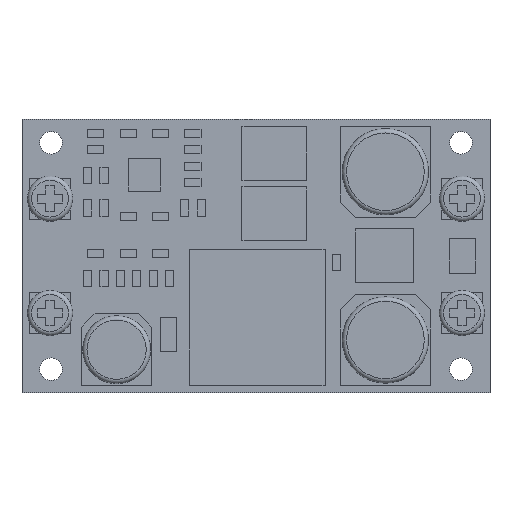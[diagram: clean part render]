
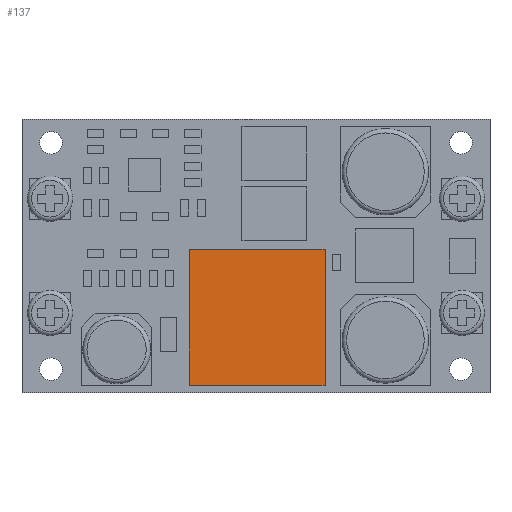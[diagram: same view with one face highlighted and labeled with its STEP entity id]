
A CAD part, top view. The second image highlights one B-rep face of the part: STEP entity #137.
In plain terms, the highlighted planar face has unit normal (0, 0, 1).
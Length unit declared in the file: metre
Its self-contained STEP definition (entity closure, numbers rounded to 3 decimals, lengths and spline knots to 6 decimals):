
#137 = ADVANCED_FACE( '', ( #578 ), #579, .F. );
#578 = FACE_OUTER_BOUND( '', #1289, .T. );
#579 = PLANE( '', #1290 );
#1289 = EDGE_LOOP( '', ( #2437, #2438, #2439, #2440 ) );
#1290 = AXIS2_PLACEMENT_3D( '', #2441, #2442, #2443 );
#2437 = ORIENTED_EDGE( '', *, *, #4453, .T. );
#2438 = ORIENTED_EDGE( '', *, *, #4454, .T. );
#2439 = ORIENTED_EDGE( '', *, *, #4455, .T. );
#2440 = ORIENTED_EDGE( '', *, *, #4456, .T. );
#2441 = CARTESIAN_POINT( '', ( -0.0062, -0.012, 0.01 ) );
#2442 = DIRECTION( '', ( 0., 0., -1. ) );
#2443 = DIRECTION( '', ( -1., 0., 0. ) );
#4453 = EDGE_CURVE( '', #5448, #5449, #5450, .T. );
#4454 = EDGE_CURVE( '', #5449, #5451, #5452, .T. );
#4455 = EDGE_CURVE( '', #5451, #5453, #5454, .T. );
#4456 = EDGE_CURVE( '', #5453, #5448, #5455, .T. );
#5448 = VERTEX_POINT( '', #6929 );
#5449 = VERTEX_POINT( '', #6930 );
#5450 = LINE( '', #6931, #6932 );
#5451 = VERTEX_POINT( '', #6933 );
#5452 = LINE( '', #6934, #6935 );
#5453 = VERTEX_POINT( '', #6936 );
#5454 = LINE( '', #6937, #6938 );
#5455 = LINE( '', #6939, #6940 );
#6929 = CARTESIAN_POINT( '', ( -0.0062, -0.012, 0.01 ) );
#6930 = CARTESIAN_POINT( '', ( 0.0064, -0.012, 0.01 ) );
#6931 = CARTESIAN_POINT( '', ( -0.0062, -0.012, 0.01 ) );
#6932 = VECTOR( '', #8258, 1. );
#6933 = CARTESIAN_POINT( '', ( 0.0064, 0.0006, 0.01 ) );
#6934 = CARTESIAN_POINT( '', ( 0.0064, -0.012, 0.01 ) );
#6935 = VECTOR( '', #8259, 1. );
#6936 = CARTESIAN_POINT( '', ( -0.0062, 0.0006, 0.01 ) );
#6937 = CARTESIAN_POINT( '', ( 0.0064, 0.0006, 0.01 ) );
#6938 = VECTOR( '', #8260, 1. );
#6939 = CARTESIAN_POINT( '', ( -0.0062, 0.0006, 0.01 ) );
#6940 = VECTOR( '', #8261, 1. );
#8258 = DIRECTION( '', ( 1., 0., 0. ) );
#8259 = DIRECTION( '', ( 0., 1., 0. ) );
#8260 = DIRECTION( '', ( -1., 0., 0. ) );
#8261 = DIRECTION( '', ( 0., -1., 0. ) );
